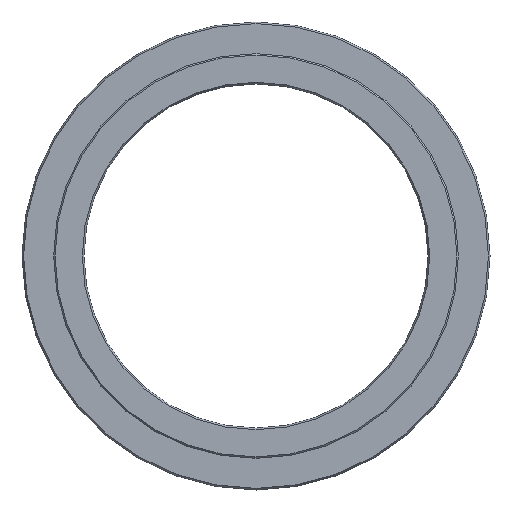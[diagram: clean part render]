
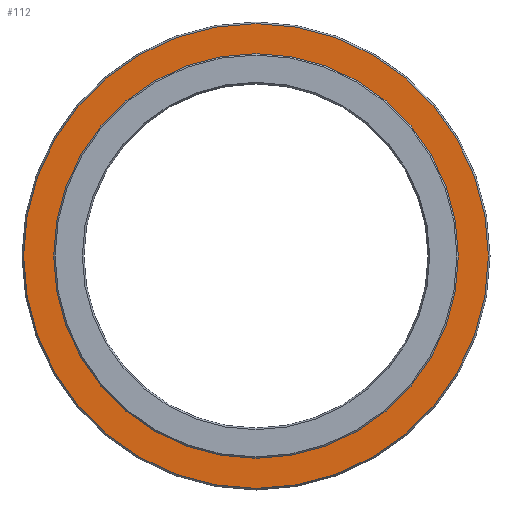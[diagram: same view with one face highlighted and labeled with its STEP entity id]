
A CAD part, left-side view. The second image highlights one B-rep face of the part: STEP entity #112.
In plain terms, the highlighted planar face has unit normal (-1, 0, 0).
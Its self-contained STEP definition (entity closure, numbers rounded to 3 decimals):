
#107=PLANE('',#279);
#112=ADVANCED_FACE('',(#131,#132),#107,.T.);
#131=FACE_BOUND('',#163,.T.);
#132=FACE_BOUND('',#164,.T.);
#163=EDGE_LOOP('',(#195));
#164=EDGE_LOOP('',(#196));
#195=ORIENTED_EDGE('',*,*,#243,.T.);
#196=ORIENTED_EDGE('',*,*,#244,.T.);
#227=VERTEX_POINT('',#379);
#228=VERTEX_POINT('',#381);
#243=EDGE_CURVE('',#227,#227,#259,.T.);
#244=EDGE_CURVE('',#228,#228,#260,.T.);
#259=CIRCLE('',#277,84.423);
#260=CIRCLE('',#278,73.5);
#277=AXIS2_PLACEMENT_3D('',#378,#314,#315);
#278=AXIS2_PLACEMENT_3D('',#380,#316,#317);
#279=AXIS2_PLACEMENT_3D('',#382,#318,#319);
#314=DIRECTION('',(-1.,0.,0.));
#315=DIRECTION('',(0.,0.,1.));
#316=DIRECTION('',(1.,0.,0.));
#317=DIRECTION('',(0.,0.,-1.));
#318=DIRECTION('',(-1.,0.,0.));
#319=DIRECTION('',(0.,0.,1.));
#378=CARTESIAN_POINT('',(0.,0.,0.));
#379=CARTESIAN_POINT('',(0.,0.,84.423));
#380=CARTESIAN_POINT('',(0.,0.,0.));
#381=CARTESIAN_POINT('',(0.,0.,-73.5));
#382=CARTESIAN_POINT('',(0.,85.,0.));
